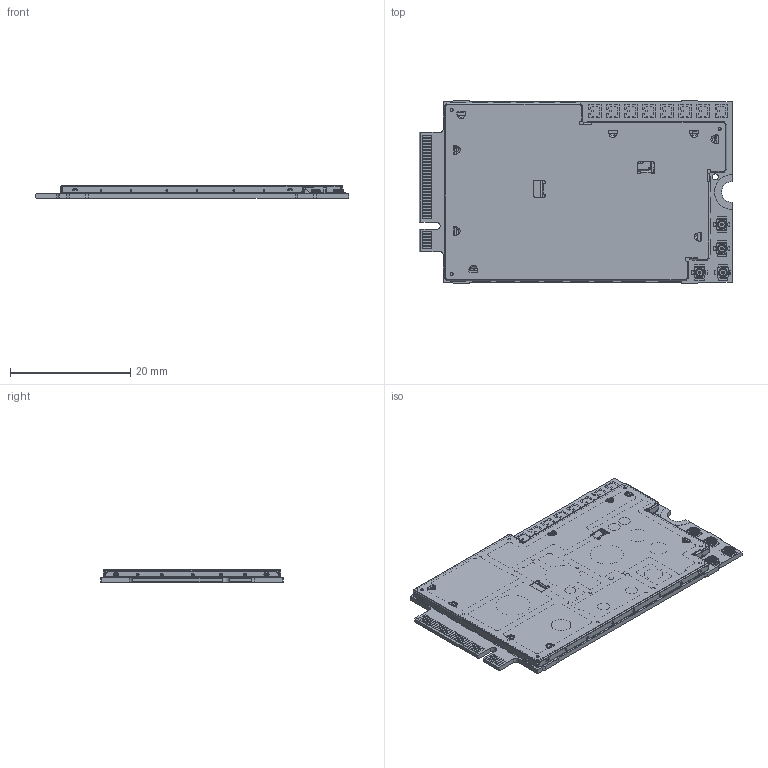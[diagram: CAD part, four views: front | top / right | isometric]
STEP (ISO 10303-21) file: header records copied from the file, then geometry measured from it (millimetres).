
FILE_DESCRIPTION((''),'2;1');
FILE_NAME('5306725_EM9291_PCA_ASM','2023-04-20T14:48:30',('awicikowski'),('Sierra Wireless'),'CREO PARAMETRIC BY PTC INC, 2022124','CREO PARAMETRIC BY PTC INC, 2022124','');
FILE_SCHEMA(('AUTOMOTIVE_DESIGN { 1 0 10303 214 1 1 1 1 }'));
Length unit declared in the file: inch
Products named in the file (111): EM92XX_5306726; 3016818; 3001910; 3016858; 3017659; 3017658; 3017739; 3017826; 3017799; 3017631; 3016889; 3017679; 3017742; 3017266; 3017612; 3017376; 3017650; 3017607; 3017745; 3017605; 3017716; 3017707; 3016819; 3100230; 3100651; 3100153; 3016820; 3017645; 3700553; 3700478; 3017755; 3017078; 3017687; 3017690; 3017465; 3016697; 3017610; 3016936; 3100645; 3017715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
Assembly tree (567 placements, depth 2):
  5306725_EM9291_PCA_ASM
    EM92XX_5306726
    3016818  x13
    3001910  x7
    3016858  x8
    3017659  x2
    3017658
    3017739
    3017826  x2
    3017799
    3017631  x4
    3016889  x2
    3017679  x2
    3017742  x3
    3017266  x6
    3017612  x2
    3017376
    3017650
    3017607
    3017745
    3017605
    3017716
    3017707
    3016819  x7
    3100230  x56
    3100651  x25
    3100153
    3016820  x8
    3017645
    3700553  x2
    3700478
    3017755
    3017078  x3
    3017687
    3017690  x2
    3017465  x4
    3016697  x2
    3017610
    3016936
    3100645
    3017715  x4
    3017525
    3017541  x4
    3017526  x9
    3017528  x7
    3017532  x5
    3017530
    3016038  x3
    3017527
    3017562  x2
    3016027
    3017545
    3017534  x2
    3017537  x2
    3017543  x2
    3017523
    3016058  x3
    3017544
    3016277
    3017542
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Bounding box: 52.15 x 30.3 x 2.12 mm (x, y, z)
Volume: 2031 mm3; surface area: 9887.6 mm2
Topology: 573 solids, 581 shells, 5967 faces, 15127 edges, 10740 vertices
Faces by surface type: plane 5233, cylinder 530, sphere 116, cone 40, bspline 32, torus 16
Entity records: 172755 total; most frequent: CARTESIAN_POINT 24635, DIRECTION 20606, ORIENTED_EDGE 14829, VECTOR 7585, LINE 7585, EDGE_CURVE 7440, PROPERTY_DEFINITION 6345, AXIS2_PLACEMENT_3D 6344
